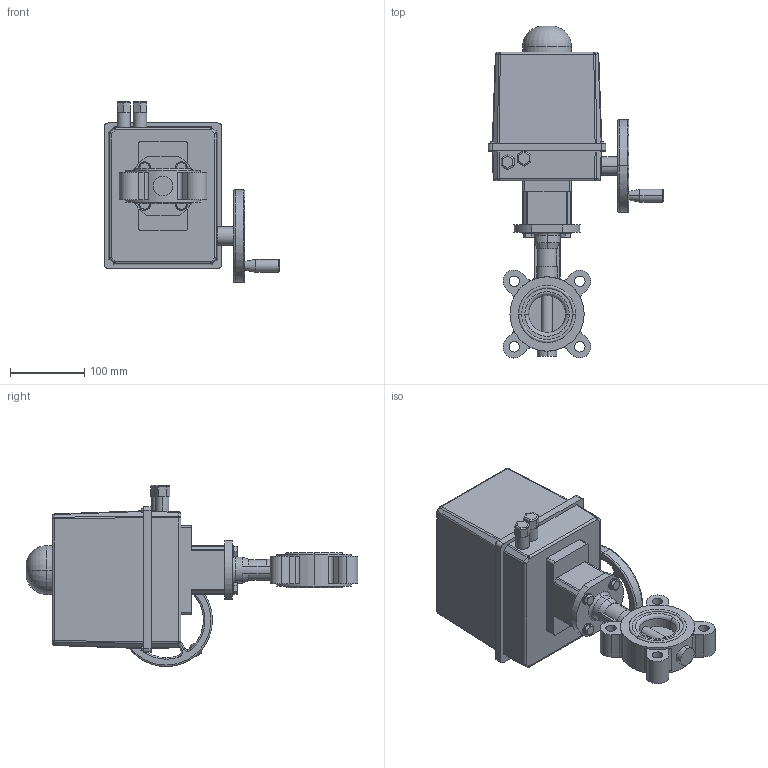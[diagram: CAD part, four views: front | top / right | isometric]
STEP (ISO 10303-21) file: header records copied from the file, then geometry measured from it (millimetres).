
FILE_DESCRIPTION (( 'STEP AP214' ), '1' );
FILE_NAME ('67660.step', '2020-10-26T06:44:14', ( '' ), ( '' ), 'SwSTEP 2.0', 'SolidWorks 2019', '' );
FILE_SCHEMA (( 'AUTOMOTIVE_DESIGN' ));
Length unit declared in the file: millimetre
Products named in the file (6): 67660; PSQ 103_PSQ 103-36-24VDC-F07; 6kt-Schr DIN 933_M8x25; Steckkupplung PSQ 103_PSQ 103 VK-11; U-Scheibe DIN 125 A_M8; TL20-0050_M01
Assembly tree (11 placements, depth 2):
  67660
    TL20-0050_M01
    PSQ 103_PSQ 103-36-24VDC-F07
    Steckkupplung PSQ 103_PSQ 103 VK-11
    6kt-Schr DIN 933_M8x25  x4
    U-Scheibe DIN 125 A_M8  x4
Bounding box: 236 x 447.17 x 244 mm (x, y, z)
Volume: 5554961.2 mm3; surface area: 319347.5 mm2
Topology: 11 solids, 11 shells, 795 faces, 2029 edges, 1256 vertices
Faces by surface type: cylinder 335, plane 318, torus 64, cone 56, sphere 16, bspline 6
Entity records: 25545 total; most frequent: CARTESIAN_POINT 4600, DIRECTION 3857, ORIENTED_EDGE 3578, EDGE_CURVE 1789, AXIS2_PLACEMENT_3D 1459, VERTEX_POINT 1136, LINE 939, VECTOR 939
